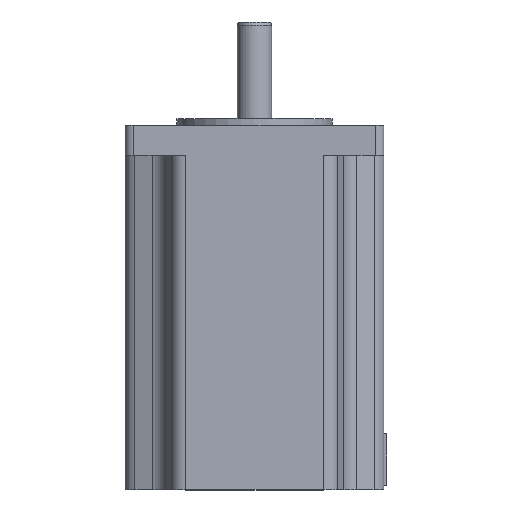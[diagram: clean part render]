
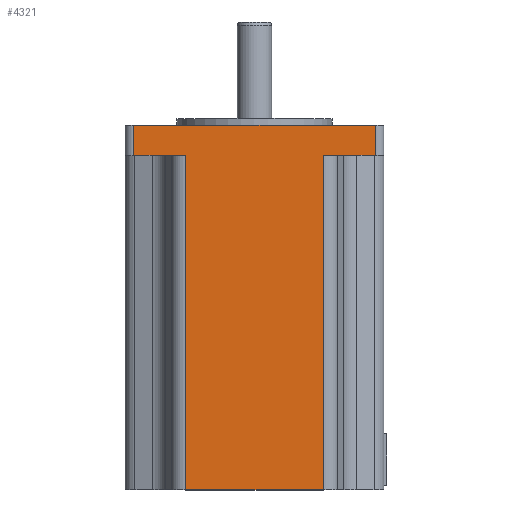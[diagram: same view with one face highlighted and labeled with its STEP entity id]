
A CAD part, top view. The second image highlights one B-rep face of the part: STEP entity #4321.
In plain terms, the highlighted planar face has unit normal (0, 0, 1).
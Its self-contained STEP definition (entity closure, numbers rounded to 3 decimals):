
#70=DIRECTION('',(1.,0.,0.));
#71=VECTOR('',#70,12.);
#72=CARTESIAN_POINT('',(16.,77.5,30.));
#73=LINE('',#72,#71);
#79=DIRECTION('',(1.,0.,0.));
#80=VECTOR('',#79,12.);
#81=CARTESIAN_POINT('',(-28.,77.5,30.));
#82=LINE('',#81,#80);
#168=DIRECTION('',(1.,0.,0.));
#169=VECTOR('',#168,56.);
#170=CARTESIAN_POINT('',(-28.,84.5,30.));
#171=LINE('',#170,#169);
#1077=DIRECTION('',(0.,-1.,0.));
#1078=VECTOR('',#1077,7.);
#1079=CARTESIAN_POINT('',(-28.,84.5,30.));
#1080=LINE('',#1079,#1078);
#1081=DIRECTION('',(0.,-1.,0.));
#1082=VECTOR('',#1081,7.);
#1083=CARTESIAN_POINT('',(28.,84.5,30.));
#1084=LINE('',#1083,#1082);
#1085=DIRECTION('',(0.,1.,0.));
#1086=VECTOR('',#1085,77.5);
#1087=CARTESIAN_POINT('',(-16.,0.,30.));
#1088=LINE('',#1087,#1086);
#1094=DIRECTION('',(0.,1.,0.));
#1095=VECTOR('',#1094,77.5);
#1096=CARTESIAN_POINT('',(16.,0.,30.));
#1097=LINE('',#1096,#1095);
#1209=DIRECTION('',(1.,0.,0.));
#1210=VECTOR('',#1209,32.);
#1211=CARTESIAN_POINT('',(-16.,0.,30.));
#1212=LINE('',#1211,#1210);
#2178=CARTESIAN_POINT('',(-16.,0.,30.));
#2179=VERTEX_POINT('',#2178);
#2180=CARTESIAN_POINT('',(16.,0.,30.));
#2181=VERTEX_POINT('',#2180);
#2226=CARTESIAN_POINT('',(-16.,77.5,30.));
#2227=VERTEX_POINT('',#2226);
#2228=CARTESIAN_POINT('',(16.,77.5,30.));
#2230=VERTEX_POINT('',#2228);
#2248=CARTESIAN_POINT('',(-28.,77.5,30.));
#2250=VERTEX_POINT('',#2248);
#2254=CARTESIAN_POINT('',(-28.,84.5,30.));
#2255=VERTEX_POINT('',#2254);
#2257=CARTESIAN_POINT('',(28.,77.5,30.));
#2259=VERTEX_POINT('',#2257);
#2260=CARTESIAN_POINT('',(28.,84.5,30.));
#2261=VERTEX_POINT('',#2260);
#4302=CARTESIAN_POINT('',(-16.,0.,30.));
#4303=DIRECTION('',(0.,0.,1.));
#4304=DIRECTION('',(1.,0.,0.));
#4305=AXIS2_PLACEMENT_3D('',#4302,#4303,#4304);
#4306=PLANE('',#4305);
#4307=ORIENTED_EDGE('',*,*,#4297,.F.);
#4308=ORIENTED_EDGE('',*,*,#2966,.T.);
#4310=ORIENTED_EDGE('',*,*,#4309,.T.);
#4311=ORIENTED_EDGE('',*,*,#2887,.F.);
#4313=ORIENTED_EDGE('',*,*,#4312,.F.);
#4315=ORIENTED_EDGE('',*,*,#4314,.F.);
#4317=ORIENTED_EDGE('',*,*,#4316,.T.);
#4318=ORIENTED_EDGE('',*,*,#2904,.F.);
#4319=EDGE_LOOP('',(#4307,#4308,#4310,#4311,#4313,#4315,#4317,#4318));
#4320=FACE_OUTER_BOUND('',#4319,.F.);
#4321=ADVANCED_FACE('',(#4320),#4306,.T.);
#2887=EDGE_CURVE('',#2230,#2259,#73,.T.);
#2904=EDGE_CURVE('',#2250,#2227,#82,.T.);
#2966=EDGE_CURVE('',#2255,#2261,#171,.T.);
#4297=EDGE_CURVE('',#2255,#2250,#1080,.T.);
#4309=EDGE_CURVE('',#2261,#2259,#1084,.T.);
#4312=EDGE_CURVE('',#2181,#2230,#1097,.T.);
#4314=EDGE_CURVE('',#2179,#2181,#1212,.T.);
#4316=EDGE_CURVE('',#2179,#2227,#1088,.T.);
